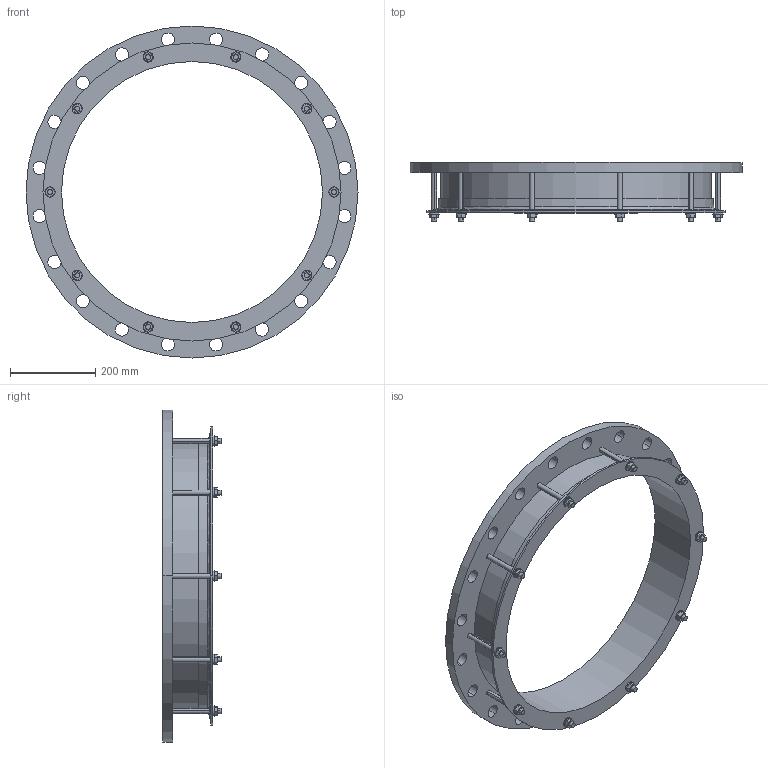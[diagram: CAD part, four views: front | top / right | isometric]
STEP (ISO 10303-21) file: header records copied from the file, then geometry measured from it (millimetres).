
FILE_DESCRIPTION((''),'2;1');
FILE_NAME('610X600PN10','2019-01-16T',('mfairey'),('Glynwed Pipe Systems'),'CREO PARAMETRIC BY PTC INC, 2016130','CREO PARAMETRIC BY PTC INC, 2016130','');
FILE_SCHEMA(('CONFIG_CONTROL_DESIGN'));
Length unit declared in the file: millimetre
Products named in the file (1): 610X600PN10
Bounding box: 780 x 137.45 x 780 mm (x, y, z)
Volume: 6806958.6 mm3; surface area: 1018349.7 mm2
Topology: 1 solids, 1 shells, 208 faces, 548 edges, 364 vertices
Faces by surface type: cylinder 108, plane 94, cone 4, torus 2
Entity records: 7194 total; most frequent: CARTESIAN_POINT 1748, DIRECTION 1132, ORIENTED_EDGE 1096, EDGE_CURVE 548, AXIS2_PLACEMENT_3D 420, VERTEX_POINT 364, VECTOR 292, LINE 292
